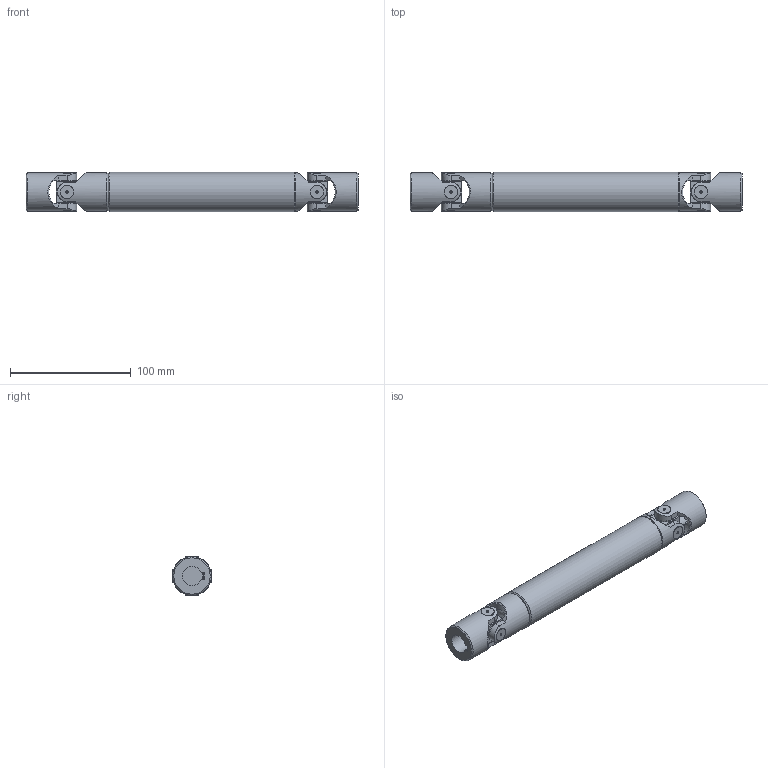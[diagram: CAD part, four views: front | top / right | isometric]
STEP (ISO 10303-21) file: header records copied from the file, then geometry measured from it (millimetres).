
FILE_DESCRIPTION(/* description */ (''),/* implementation_level */ '2;1');
FILE_NAME(/* name */ '\\SRV2016\Societa\Stefano\Disegni 3D\00Catalogo 3D\03Trasmissioni standard GA\1GA26\1GA26_SG0A1626.stp',/* time_stamp */ '2022-02-16T16:18:44+01:00',/* author */ ('acquisti'),/* organization */ (''),/* preprocessor_version */ 'ST-DEVELOPER v15.6',/* originating_system */ 'Autodesk Inventor 2015',/* authorisation */ '');
FILE_SCHEMA (('AUTOMOTIVE_DESIGN { 1 0 10303 214 3 1 1 }'));
Length unit declared in the file: millimetre
Products named in the file (5): 1GA26 LAI; 1GA26 LCI; 1G MOC; 1G SFE; 1GA26_SG0A1626
Assembly tree (6 placements, depth 2):
  1GA26_SG0A1626
    1GA26 LAI
    1GA26 LCI
    1G MOC  x2
    1G SFE  x2
Bounding box: 275 x 32.5 x 32.5 mm (x, y, z)
Volume: 161211.9 mm3; surface area: 63843.2 mm2
Topology: 6 solids, 6 shells, 228 faces, 551 edges, 359 vertices
Faces by surface type: plane 106, cylinder 93, cone 25, torus 4
Full cylindrical faces by diameter (mm): 2 x8, 15.5 x8, 16 x1, 18 x2, 27 x1, 32 x4, 32.5 x1
Entity records: 5689 total; most frequent: CARTESIAN_POINT 1639, DIRECTION 823, ORIENTED_EDGE 796, EDGE_CURVE 398, AXIS2_PLACEMENT_3D 335, VERTEX_POINT 274, EDGE_LOOP 224, FACE_OUTER_BOUND 176
